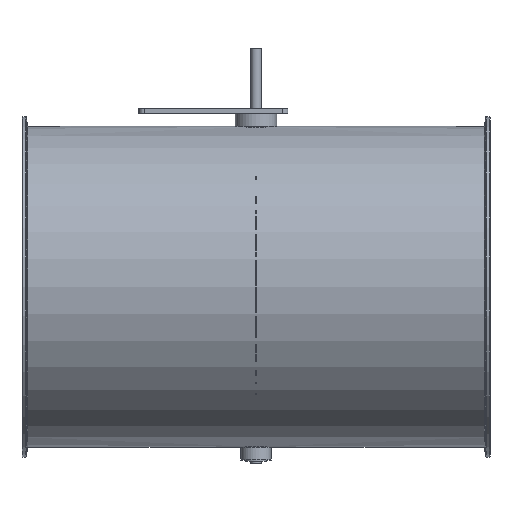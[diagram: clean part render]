
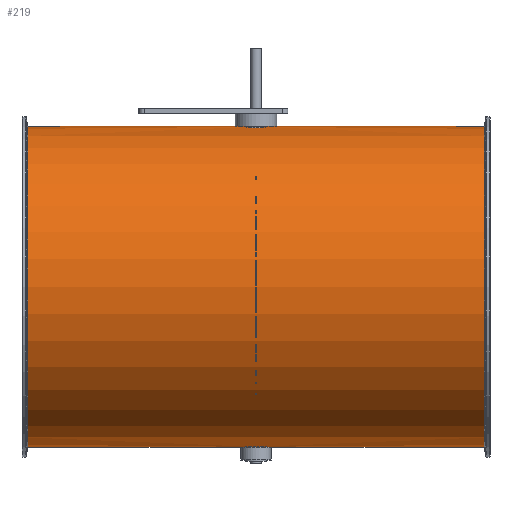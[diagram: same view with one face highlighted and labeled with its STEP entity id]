
A CAD part, top view. The second image highlights one B-rep face of the part: STEP entity #219.
In plain terms, the highlighted cylindrical face has radius 150.8 mm (diameter 301.6 mm), a full revolution.
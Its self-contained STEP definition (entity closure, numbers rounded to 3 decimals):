
#165=B_SPLINE_CURVE_WITH_KNOTS('',3,(#1307,#1308,#1309,#1310,#1311,#1312,
#1313,#1314,#1315,#1316,#1317,#1318,#1319,#1320,#1321,#1322,#1323,#1324),
 .UNSPECIFIED.,.T.,.F.,(2,2,2,2,2,2,2,2,2,2,2),(-0.125,0.,0.125,0.25,0.375,
0.5,0.625,0.75,0.875,1.,1.125),.UNSPECIFIED.);
#166=B_SPLINE_CURVE_WITH_KNOTS('',3,(#1326,#1327,#1328,#1329,#1330,#1331,
#1332,#1333,#1334,#1335,#1336,#1337,#1338,#1339,#1340,#1341,#1342,#1343),
 .UNSPECIFIED.,.T.,.F.,(2,2,2,2,2,2,2,2,2,2,2),(-0.125,0.,0.125,0.25,0.375,
0.5,0.625,0.75,0.875,1.,1.125),.UNSPECIFIED.);
#188=CYLINDRICAL_SURFACE('',#920,150.8);
#219=ADVANCED_FACE('',(#309,#310,#311,#312),#188,.T.);
#309=FACE_BOUND('',#411,.T.);
#310=FACE_BOUND('',#412,.T.);
#311=FACE_BOUND('',#413,.T.);
#312=FACE_BOUND('',#414,.T.);
#411=EDGE_LOOP('',(#527));
#412=EDGE_LOOP('',(#528));
#413=EDGE_LOOP('',(#529));
#414=EDGE_LOOP('',(#530));
#527=ORIENTED_EDGE('',*,*,#767,.T.);
#528=ORIENTED_EDGE('',*,*,#768,.F.);
#529=ORIENTED_EDGE('',*,*,#769,.F.);
#530=ORIENTED_EDGE('',*,*,#770,.T.);
#693=VERTEX_POINT('',#1306);
#694=VERTEX_POINT('',#1325);
#695=VERTEX_POINT('',#1344);
#696=VERTEX_POINT('',#1346);
#767=EDGE_CURVE('',#693,#693,#853,.T.);
#768=EDGE_CURVE('',#694,#694,#165,.T.);
#769=EDGE_CURVE('',#695,#695,#166,.T.);
#770=EDGE_CURVE('',#696,#696,#854,.T.);
#853=CIRCLE('',#918,150.8);
#854=CIRCLE('',#919,150.8);
#918=AXIS2_PLACEMENT_3D('',#1305,#1050,#1051);
#919=AXIS2_PLACEMENT_3D('',#1345,#1052,#1053);
#920=AXIS2_PLACEMENT_3D('',#1347,#1054,#1055);
#1050=DIRECTION('',(-1.,0.,0.));
#1051=DIRECTION('',(0.,0.,-1.));
#1052=DIRECTION('',(1.,0.,0.));
#1053=DIRECTION('',(0.,0.,1.));
#1054=DIRECTION('',(1.,0.,0.));
#1055=DIRECTION('',(0.,0.,-1.));
#1305=CARTESIAN_POINT('',(214.804,-51.,125.));
#1306=CARTESIAN_POINT('',(214.804,-51.,-25.8));
#1307=CARTESIAN_POINT('',(2.643,99.468,115.));
#1308=CARTESIAN_POINT('',(-2.643,99.468,115.));
#1309=CARTESIAN_POINT('',(-5.227,99.548,116.085));
#1310=CARTESIAN_POINT('',(-8.916,99.721,119.774));
#1311=CARTESIAN_POINT('',(-9.999,99.8,122.385));
#1312=CARTESIAN_POINT('',(-10.001,99.8,127.604));
#1313=CARTESIAN_POINT('',(-8.941,99.722,130.2));
#1314=CARTESIAN_POINT('',(-5.208,99.547,133.936));
#1315=CARTESIAN_POINT('',(-2.614,99.468,134.999));
#1316=CARTESIAN_POINT('',(2.607,99.468,135.001));
#1317=CARTESIAN_POINT('',(5.219,99.547,133.92));
#1318=CARTESIAN_POINT('',(8.91,99.72,130.236));
#1319=CARTESIAN_POINT('',(9.997,99.8,127.65));
#1320=CARTESIAN_POINT('',(10.003,99.8,122.37));
#1321=CARTESIAN_POINT('',(8.921,99.721,119.781));
#1322=CARTESIAN_POINT('',(5.233,99.548,116.088));
#1323=CARTESIAN_POINT('',(2.643,99.468,115.));
#1324=CARTESIAN_POINT('',(-2.643,99.468,115.));
#1325=CARTESIAN_POINT('',(0.,99.468,115.));
#1326=CARTESIAN_POINT('',(-2.643,-201.468,115.));
#1327=CARTESIAN_POINT('',(2.643,-201.468,115.));
#1328=CARTESIAN_POINT('',(5.227,-201.548,116.085));
#1329=CARTESIAN_POINT('',(8.916,-201.721,119.774));
#1330=CARTESIAN_POINT('',(9.999,-201.8,122.385));
#1331=CARTESIAN_POINT('',(10.001,-201.8,127.604));
#1332=CARTESIAN_POINT('',(8.941,-201.722,130.2));
#1333=CARTESIAN_POINT('',(5.208,-201.547,133.936));
#1334=CARTESIAN_POINT('',(2.614,-201.468,134.999));
#1335=CARTESIAN_POINT('',(-2.607,-201.468,135.001));
#1336=CARTESIAN_POINT('',(-5.219,-201.547,133.92));
#1337=CARTESIAN_POINT('',(-8.91,-201.72,130.236));
#1338=CARTESIAN_POINT('',(-9.997,-201.8,127.65));
#1339=CARTESIAN_POINT('',(-10.003,-201.8,122.37));
#1340=CARTESIAN_POINT('',(-8.921,-201.721,119.781));
#1341=CARTESIAN_POINT('',(-5.233,-201.548,116.088));
#1342=CARTESIAN_POINT('',(-2.643,-201.468,115.));
#1343=CARTESIAN_POINT('',(2.643,-201.468,115.));
#1344=CARTESIAN_POINT('',(0.,-201.468,115.));
#1345=CARTESIAN_POINT('',(-214.804,-51.,125.));
#1346=CARTESIAN_POINT('',(-214.804,-51.,275.8));
#1347=CARTESIAN_POINT('',(-220.,-51.,125.));
